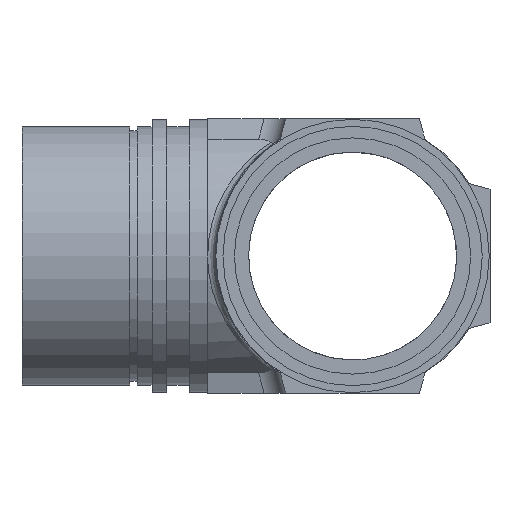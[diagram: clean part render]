
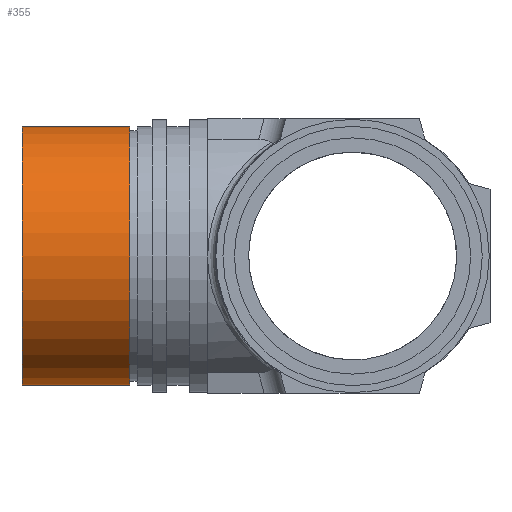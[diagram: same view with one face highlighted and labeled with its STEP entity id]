
A CAD part, left-side view. The second image highlights one B-rep face of the part: STEP entity #355.
In plain terms, the highlighted cylindrical face has radius 17.45 mm (diameter 34.9 mm), a full revolution.
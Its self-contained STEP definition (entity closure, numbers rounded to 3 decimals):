
#21 = EDGE_LOOP ( 'NONE', ( #358 ) ) ;
#348 = EDGE_LOOP ( 'NONE', ( #352 ) ) ;
#352 = ORIENTED_EDGE ( 'NONE', *, *, #397, .T. ) ;
#354 = EDGE_CURVE ( 'NONE', #2143, #2143, #1630, .T. ) ;
#355 = ADVANCED_FACE ( 'NONE', ( #1692, #1635 ), #1625, .T. ) ;
#358 = ORIENTED_EDGE ( 'NONE', *, *, #354, .F. ) ;
#397 = EDGE_CURVE ( 'NONE', #2144, #2144, #1575, .T. ) ;
#1516 = CARTESIAN_POINT ( 'NONE',  ( -2.899, 28.111, 0. ) ) ;
#1565 = DIRECTION ( 'NONE',  ( 0., 0., 1. ) ) ;
#1566 = DIRECTION ( 'NONE',  ( 0., 1., 0. ) ) ;
#1573 = AXIS2_PLACEMENT_3D ( 'NONE', #1516, #1566, #1565 ) ;
#1575 = CIRCLE ( 'NONE', #1573, 17.45 ) ;
#1614 = CARTESIAN_POINT ( 'NONE',  ( -2.899, 28.111, 0. ) ) ;
#1618 = DIRECTION ( 'NONE',  ( 0., 1., 0. ) ) ;
#1619 = DIRECTION ( 'NONE',  ( 0., 0., 1. ) ) ;
#1620 = DIRECTION ( 'NONE',  ( 0., 0., 1. ) ) ;
#1621 = DIRECTION ( 'NONE',  ( 0., 1., 0. ) ) ;
#1622 = CARTESIAN_POINT ( 'NONE',  ( -2.899, 42.611, 0. ) ) ;
#1623 = AXIS2_PLACEMENT_3D ( 'NONE', #1622, #1621, #1620 ) ;
#1625 = CYLINDRICAL_SURFACE ( 'NONE', #1676, 17.45 ) ;
#1630 = CIRCLE ( 'NONE', #1623, 17.45 ) ;
#1635 = FACE_OUTER_BOUND ( 'NONE', #21, .T. ) ;
#1676 = AXIS2_PLACEMENT_3D ( 'NONE', #1614, #1618, #1619 ) ;
#1692 = FACE_OUTER_BOUND ( 'NONE', #348, .T. ) ;
#2120 = CARTESIAN_POINT ( 'NONE',  ( -2.899, 28.111, 17.45 ) ) ;
#2141 = CARTESIAN_POINT ( 'NONE',  ( -2.899, 42.611, 17.45 ) ) ;
#2143 = VERTEX_POINT ( 'NONE', #2141 ) ;
#2144 = VERTEX_POINT ( 'NONE', #2120 ) ;
